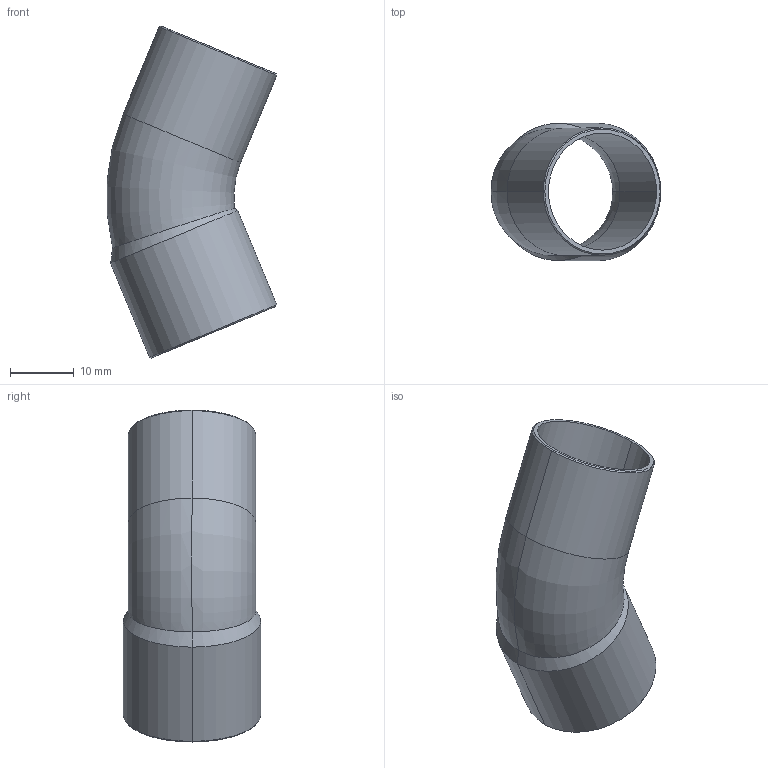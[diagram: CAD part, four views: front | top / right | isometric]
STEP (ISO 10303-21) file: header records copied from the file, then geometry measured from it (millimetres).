
FILE_DESCRIPTION((''),'2;1');
FILE_NAME('P:\Bouwmaten\z-maattekeningen 3D\5000\5040\1504020.stp','2005-10-05T11:12:04',('Kris'),(''),'Autodesk Inventor 8','Autodesk Inventor 8','');
FILE_SCHEMA(('AUTOMOTIVE_DESIGN { 1 0 10303 214 1 1 1 1 }'));
Length unit declared in the file: millimetre
Products named in the file (1): 1504020
Bounding box: 26.65 x 21.6 x 52.15 mm (x, y, z)
Volume: 2339.7 mm3; surface area: 5936.7 mm2
Topology: 1 solids, 1 shells, 24 faces, 50 edges, 28 vertices
Faces by surface type: cone 10, cylinder 8, torus 4, plane 2
Entity records: 729 total; most frequent: CARTESIAN_POINT 179, DIRECTION 124, ORIENTED_EDGE 100, AXIS2_PLACEMENT_3D 53, EDGE_CURVE 50, VERTEX_POINT 28, CIRCLE 28, EDGE_LOOP 26
